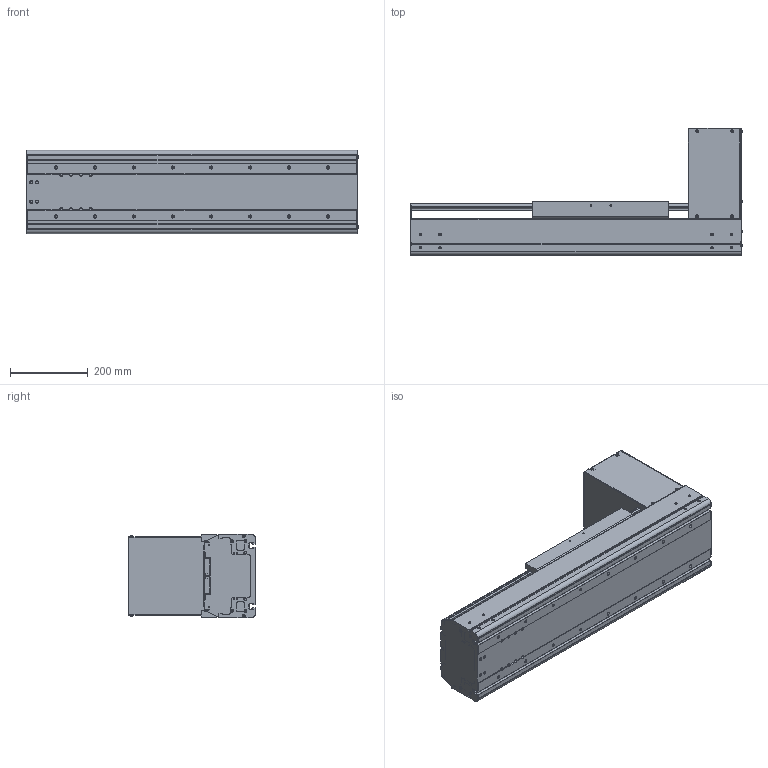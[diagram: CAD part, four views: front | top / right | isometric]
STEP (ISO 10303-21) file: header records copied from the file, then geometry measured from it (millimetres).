
FILE_DESCRIPTION((''),'2;1');
FILE_NAME('BE60J-BT-L19N-25_IGS_PRT','2017-06-18T',(' '),(''),'PRO/ENGINEER BY PARAMETRIC TECHNOLOGY CORPORATION, 2015030','PRO/ENGINEER BY PARAMETRIC TECHNOLOGY CORPORATION, 2015030','');
FILE_SCHEMA(('CONFIG_CONTROL_DESIGN'));
Products named in the file (1): BE60J-BT-L19N-25_IGS_PRT
Bounding box: 854.4 x 327.5 x 214 mm (x, y, z)
Volume: 6358395.1 mm3; surface area: 2254653.5 mm2
Topology: 1 solids, 165 shells, 1832 faces, 5045 edges, 3325 vertices
Faces by surface type: cylinder 828, plane 778, cone 130, torus 48, sphere 48
Entity records: 60004 total; most frequent: CARTESIAN_POINT 13076, DIRECTION 9937, ORIENTED_EDGE 9248, EDGE_CURVE 4936, AXIS2_PLACEMENT_3D 3669, VERTEX_POINT 3318, VECTOR 2599, LINE 2599
